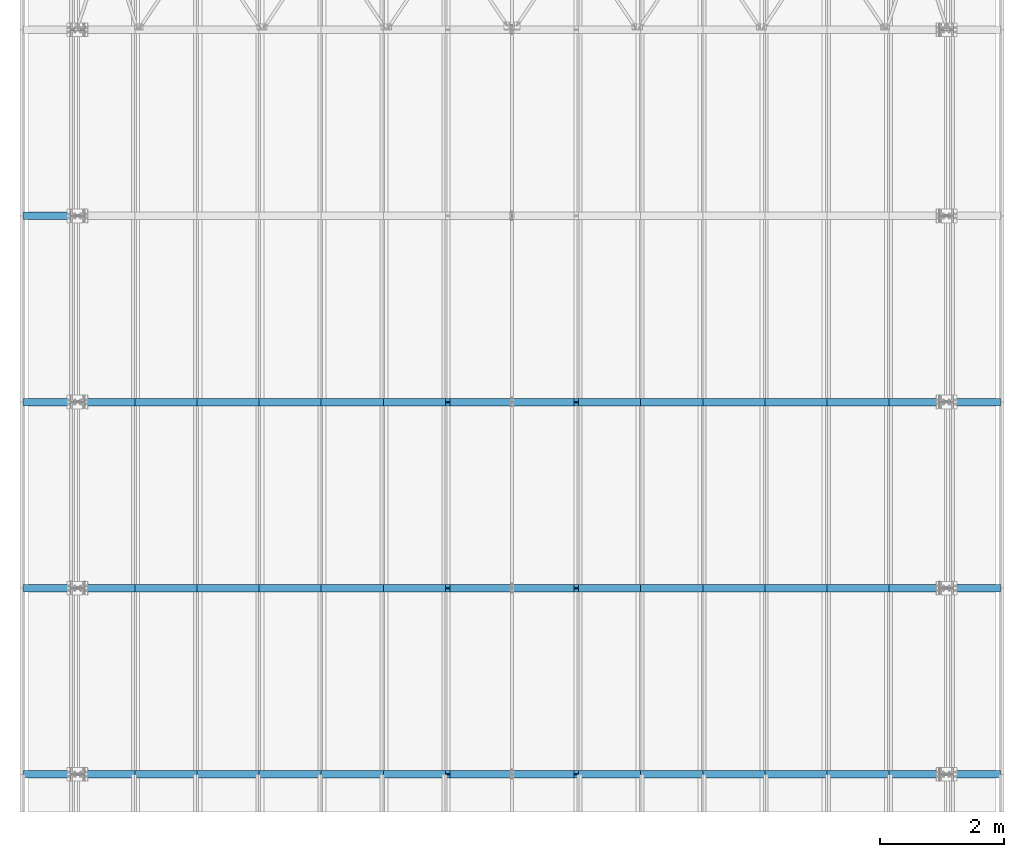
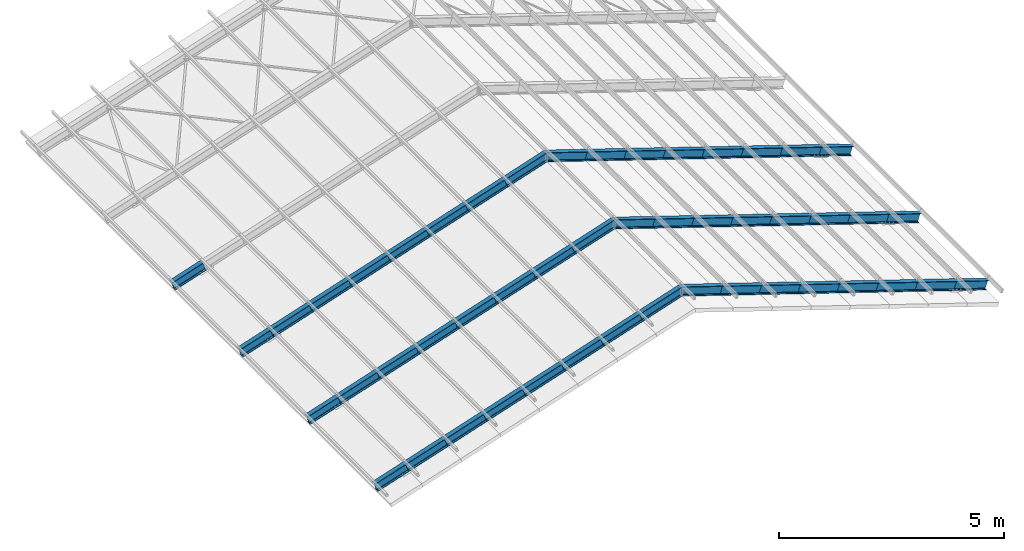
# One storey, part 1 of 53: 49 beams.
"""IFC4 building model written with IfcOpenShell, lengths in metres."""

from ifc_helpers import new_model, si_unit, frame, origin_with_axes, origin_2d_with_axis, place, context, project, spatial, i_section, l_section, extrude, clip, halfspace, material, material_profile, profile_set, profile_usage, type_object, element, save


model = new_model("IFC4")

# Units and contexts
model_context = context("Model", 3, precision=1e-05, world=origin_with_axes())
ifc_project = project(units=[si_unit("LENGTHUNIT", "METRE"), si_unit("AREAUNIT", "SQUARE_METRE"), si_unit("VOLUMEUNIT", "CUBIC_METRE"), si_unit("MASSUNIT", "GRAM", prefix="KILO"), si_unit("TIMEUNIT", "SECOND"), si_unit("PLANEANGLEUNIT", "RADIAN"), si_unit("SOLIDANGLEUNIT", "STERADIAN"), si_unit("THERMODYNAMICTEMPERATUREUNIT", "DEGREE_CELSIUS")], contexts=[model_context])

# Site, building, storey
placement_1 = place(None, origin_with_axes())
site = spatial("IfcSite", under=ifc_project, at=placement_1, Name="Italia", CompositionType="ELEMENT")
building = spatial("IfcBuilding", under=site, at=placement_1, Name="Capannone", CompositionType="ELEMENT")
storey_placement = place(None, frame((0.0, 0.0, 5.550000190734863), z_axis=(0.0, 0.0, 1.0), x_axis=(1.0, 0.0, 0.0)))
storey = spatial("IfcBuildingStorey", under=building, at=storey_placement, Name="Storey 1", CompositionType="ELEMENT", Elevation=5.550000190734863)

# Beams
ifc_material = material(Name="Acciaio", Category="Acciaio")
ifc_material_profile = material_profile(ifc_material, l_section(Depth=0.045, Width=0.045, Thickness=0.004, FilletRadius=0.0, EdgeRadius=0.0, at=origin_2d_with_axis()), Name="2 L45x4")
ifc_profile_set = profile_set([ifc_material_profile])
ifc_profile_usage_1 = profile_usage(ifc_profile_set, cardinal=8)
beam_type_1 = type_object("IfcBeamType", Name="3 IPE240", PredefinedType="BEAM", material=ifc_profile_usage_1)
placement_2 = place(placement_1, origin_with_axes())
beam_1_placement = place(placement_2, origin_with_axes())
element("IfcBeam", 1, at=beam_1_placement, inside=storey, type_object=beam_type_1, Name="103", context=model_context, shape_type="SweptSolid", body=[
    extrude(i_section(OverallWidth=0.12, OverallDepth=0.24, WebThickness=0.0062, FlangeThickness=0.0098, FilletRadius=0.015, at=origin_2d_with_axis()), frame((-0.837458, 6.0, 5.40115), z_axis=(0.950031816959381, 0.0, 0.312153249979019), x_axis=(0.0, 1.0, 0.0)), (0.0, 0.0, 1.0), 0.842077),
])
ifc_profile_usage_2 = profile_usage(ifc_profile_set, cardinal=8)
beam_type_2 = type_object("IfcBeamType", Name="3 IPE240", PredefinedType="BEAM", material=ifc_profile_usage_2)
beam_2_placement = place(placement_2, origin_with_axes())
element("IfcBeam", 2, at=beam_2_placement, inside=storey, type_object=beam_type_2, Name="104", context=model_context, shape_type="SweptSolid", body=[
    extrude(i_section(OverallWidth=0.12, OverallDepth=0.24, WebThickness=0.0062, FlangeThickness=0.0098, FilletRadius=0.015, at=origin_2d_with_axis()), frame((-0.837458, 9.0, 5.40115), z_axis=(0.950031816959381, 0.0, 0.312153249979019), x_axis=(0.0, 1.0, 0.0)), (0.0, 0.0, 1.0), 0.842077),
])
ifc_profile_usage_3 = profile_usage(ifc_profile_set, cardinal=8)
beam_type_3 = type_object("IfcBeamType", Name="3 IPE240", PredefinedType="BEAM", material=ifc_profile_usage_3)
beam_3_placement = place(placement_2, origin_with_axes())
element("IfcBeam", 3, at=beam_3_placement, inside=storey, type_object=beam_type_3, Name="101", context=model_context, shape_type="SweptSolid", body=[
    extrude(i_section(OverallWidth=0.12, OverallDepth=0.24, WebThickness=0.0062, FlangeThickness=0.0098, FilletRadius=0.015, at=origin_2d_with_axis()), frame((-0.837458, 0.0, 5.40115), z_axis=(0.950031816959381, -3.5391459e-08, 0.312153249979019), x_axis=(3.7252917e-08, 1.0, 0.0)), (0.0, 0.0, 1.0), 0.842077),
])
ifc_profile_usage_4 = profile_usage(ifc_profile_set, cardinal=8)
beam_type_4 = type_object("IfcBeamType", Name="3 IPE240", PredefinedType="BEAM", material=ifc_profile_usage_4)
beam_4_placement = place(placement_2, origin_with_axes())
element("IfcBeam", 4, at=beam_4_placement, inside=storey, type_object=beam_type_4, Name="102", context=model_context, shape_type="SweptSolid", body=[
    extrude(i_section(OverallWidth=0.12, OverallDepth=0.24, WebThickness=0.0062, FlangeThickness=0.0098, FilletRadius=0.015, at=origin_2d_with_axis()), frame((-0.837458, 3.0, 5.40115), z_axis=(0.950031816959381, 0.0, 0.312153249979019), x_axis=(0.0, 1.0, 0.0)), (0.0, 0.0, 1.0), 0.842077),
])
ifc_profile_usage_5 = profile_usage(ifc_profile_set, cardinal=8)
beam_type_5 = type_object("IfcBeamType", Name="3 IPE240", PredefinedType="BEAM", material=ifc_profile_usage_5)
beam_5_placement = place(placement_2, origin_with_axes())
element("IfcBeam", 5, at=beam_5_placement, inside=storey, type_object=beam_type_5, Name="142", context=model_context, shape_type="SweptSolid", body=[
    extrude(i_section(OverallWidth=0.12, OverallDepth=0.24, WebThickness=0.0062, FlangeThickness=0.0098, FilletRadius=0.015, at=origin_2d_with_axis()), frame((14.8375, 6.0, 5.40115), z_axis=(-0.950031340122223, 0.0, 0.31215438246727), x_axis=(0.0, -1.0, 0.0)), (0.0, 0.0, 1.0), 0.842077),
])
ifc_profile_usage_6 = profile_usage(ifc_profile_set, cardinal=8)
beam_type_6 = type_object("IfcBeamType", Name="3 IPE240", PredefinedType="BEAM", material=ifc_profile_usage_6)
beam_6_placement = place(placement_2, origin_with_axes())
element("IfcBeam", 6, at=beam_6_placement, inside=storey, type_object=beam_type_6, Name="101", context=model_context, shape_type="SweptSolid", body=[
    extrude(i_section(OverallWidth=0.12, OverallDepth=0.24, WebThickness=0.0062, FlangeThickness=0.0098, FilletRadius=0.015, at=origin_2d_with_axis()), frame((-0.0374584, 0.0, 5.664), z_axis=(0.950031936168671, 0.0, 0.312152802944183), x_axis=(0.0, 1.0, 0.0)), (0.0, 0.0, 1.0), 1.0526),
])
ifc_profile_usage_7 = profile_usage(ifc_profile_set, cardinal=8)
beam_type_7 = type_object("IfcBeamType", Name="3 IPE240", PredefinedType="BEAM", material=ifc_profile_usage_7)
beam_7_placement = place(placement_2, origin_with_axes())
element("IfcBeam", 7, at=beam_7_placement, inside=storey, type_object=beam_type_7, Name="101", context=model_context, shape_type="SweptSolid", body=[
    extrude(i_section(OverallWidth=0.12, OverallDepth=0.24, WebThickness=0.0062, FlangeThickness=0.0098, FilletRadius=0.015, at=origin_2d_with_axis()), frame((0.962542, 0.0, 5.99258), z_axis=(0.950031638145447, 0.0, 0.312153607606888), x_axis=(0.0, 1.0, 0.0)), (0.0, 0.0, 1.0), 1.0526),
])
ifc_profile_usage_8 = profile_usage(ifc_profile_set, cardinal=8)
beam_type_8 = type_object("IfcBeamType", Name="3 IPE240", PredefinedType="BEAM", material=ifc_profile_usage_8)
beam_8_placement = place(placement_2, origin_with_axes())
element("IfcBeam", 8, at=beam_8_placement, inside=storey, type_object=beam_type_8, Name="101", context=model_context, shape_type="SweptSolid", body=[
    extrude(i_section(OverallWidth=0.12, OverallDepth=0.24, WebThickness=0.0062, FlangeThickness=0.0098, FilletRadius=0.015, at=origin_2d_with_axis()), frame((1.96254, 0.0, 6.32115), z_axis=(0.950031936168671, 0.0, 0.312152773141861), x_axis=(0.0, 1.0, 0.0)), (0.0, 0.0, 1.0), 1.0526),
])
ifc_profile_usage_9 = profile_usage(ifc_profile_set, cardinal=8)
beam_type_9 = type_object("IfcBeamType", Name="3 IPE240", PredefinedType="BEAM", material=ifc_profile_usage_9)
beam_9_placement = place(placement_2, origin_with_axes())
element("IfcBeam", 9, at=beam_9_placement, inside=storey, type_object=beam_type_9, Name="101", context=model_context, shape_type="SweptSolid", body=[
    extrude(i_section(OverallWidth=0.12, OverallDepth=0.24, WebThickness=0.0062, FlangeThickness=0.0098, FilletRadius=0.015, at=origin_2d_with_axis()), frame((2.96254, 0.0, 6.64972), z_axis=(0.950031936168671, 0.0, 0.312152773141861), x_axis=(0.0, 1.0, 0.0)), (0.0, 0.0, 1.0), 1.0526),
])
ifc_profile_usage_10 = profile_usage(ifc_profile_set, cardinal=8)
beam_type_10 = type_object("IfcBeamType", Name="3 IPE240", PredefinedType="BEAM", material=ifc_profile_usage_10)
beam_10_placement = place(placement_2, origin_with_axes())
element("IfcBeam", 10, at=beam_10_placement, inside=storey, type_object=beam_type_10, Name="101", context=model_context, shape_type="SweptSolid", body=[
    extrude(i_section(OverallWidth=0.12, OverallDepth=0.24, WebThickness=0.0062, FlangeThickness=0.0098, FilletRadius=0.015, at=origin_2d_with_axis()), frame((3.96254, 0.0, 6.97829), z_axis=(0.950031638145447, 0.0, 0.312153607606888), x_axis=(0.0, 1.0, 0.0)), (0.0, 0.0, 1.0), 1.0526),
])
ifc_profile_usage_11 = profile_usage(ifc_profile_set, cardinal=8)
beam_type_11 = type_object("IfcBeamType", Name="3 IPE240", PredefinedType="BEAM", material=ifc_profile_usage_11)
beam_11_placement = place(placement_2, origin_with_axes())
element("IfcBeam", 11, at=beam_11_placement, inside=storey, type_object=beam_type_11, Name="101", context=model_context, shape_type="SweptSolid", body=[
    extrude(i_section(OverallWidth=0.12, OverallDepth=0.24, WebThickness=0.0062, FlangeThickness=0.0098, FilletRadius=0.015, at=origin_2d_with_axis()), frame((4.96254, 0.0, 7.30686), z_axis=(0.950031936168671, 0.0, 0.312152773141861), x_axis=(0.0, 1.0, 0.0)), (0.0, 0.0, 1.0), 1.0526),
])
ifc_profile_usage_12 = profile_usage(ifc_profile_set, cardinal=8)
beam_type_12 = type_object("IfcBeamType", Name="3 IPE240", PredefinedType="BEAM", material=ifc_profile_usage_12)
beam_12_placement = place(placement_2, origin_with_axes())
element("IfcBeam", 12, at=beam_12_placement, inside=storey, type_object=beam_type_12, Name="102", context=model_context, shape_type="SweptSolid", body=[
    extrude(i_section(OverallWidth=0.12, OverallDepth=0.24, WebThickness=0.0062, FlangeThickness=0.0098, FilletRadius=0.015, at=origin_2d_with_axis()), frame((-0.0374584, 3.0, 5.664), z_axis=(0.950031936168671, 0.0, 0.312152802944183), x_axis=(0.0, 1.0, 0.0)), (0.0, 0.0, 1.0), 1.0526),
])
ifc_profile_usage_13 = profile_usage(ifc_profile_set, cardinal=8)
beam_type_13 = type_object("IfcBeamType", Name="3 IPE240", PredefinedType="BEAM", material=ifc_profile_usage_13)
beam_13_placement = place(placement_2, origin_with_axes())
element("IfcBeam", 13, at=beam_13_placement, inside=storey, type_object=beam_type_13, Name="102", context=model_context, shape_type="SweptSolid", body=[
    extrude(i_section(OverallWidth=0.12, OverallDepth=0.24, WebThickness=0.0062, FlangeThickness=0.0098, FilletRadius=0.015, at=origin_2d_with_axis()), frame((0.962542, 3.0, 5.99258), z_axis=(0.950031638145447, 0.0, 0.312153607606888), x_axis=(0.0, 1.0, 0.0)), (0.0, 0.0, 1.0), 1.0526),
])
ifc_profile_usage_14 = profile_usage(ifc_profile_set, cardinal=8)
beam_type_14 = type_object("IfcBeamType", Name="3 IPE240", PredefinedType="BEAM", material=ifc_profile_usage_14)
beam_14_placement = place(placement_2, origin_with_axes())
element("IfcBeam", 14, at=beam_14_placement, inside=storey, type_object=beam_type_14, Name="102", context=model_context, shape_type="SweptSolid", body=[
    extrude(i_section(OverallWidth=0.12, OverallDepth=0.24, WebThickness=0.0062, FlangeThickness=0.0098, FilletRadius=0.015, at=origin_2d_with_axis()), frame((1.96254, 3.0, 6.32115), z_axis=(0.950031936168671, 0.0, 0.312152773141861), x_axis=(0.0, 1.0, 0.0)), (0.0, 0.0, 1.0), 1.0526),
])
ifc_profile_usage_15 = profile_usage(ifc_profile_set, cardinal=8)
beam_type_15 = type_object("IfcBeamType", Name="3 IPE240", PredefinedType="BEAM", material=ifc_profile_usage_15)
beam_15_placement = place(placement_2, origin_with_axes())
element("IfcBeam", 15, at=beam_15_placement, inside=storey, type_object=beam_type_15, Name="102", context=model_context, shape_type="SweptSolid", body=[
    extrude(i_section(OverallWidth=0.12, OverallDepth=0.24, WebThickness=0.0062, FlangeThickness=0.0098, FilletRadius=0.015, at=origin_2d_with_axis()), frame((2.96254, 3.0, 6.64972), z_axis=(0.950031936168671, 0.0, 0.312152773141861), x_axis=(0.0, 1.0, 0.0)), (0.0, 0.0, 1.0), 1.0526),
])
ifc_profile_usage_16 = profile_usage(ifc_profile_set, cardinal=8)
beam_type_16 = type_object("IfcBeamType", Name="3 IPE240", PredefinedType="BEAM", material=ifc_profile_usage_16)
beam_16_placement = place(placement_2, origin_with_axes())
element("IfcBeam", 16, at=beam_16_placement, inside=storey, type_object=beam_type_16, Name="102", context=model_context, shape_type="SweptSolid", body=[
    extrude(i_section(OverallWidth=0.12, OverallDepth=0.24, WebThickness=0.0062, FlangeThickness=0.0098, FilletRadius=0.015, at=origin_2d_with_axis()), frame((3.96254, 3.0, 6.97829), z_axis=(0.950031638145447, 0.0, 0.312153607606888), x_axis=(0.0, 1.0, 0.0)), (0.0, 0.0, 1.0), 1.0526),
])
ifc_profile_usage_17 = profile_usage(ifc_profile_set, cardinal=8)
beam_type_17 = type_object("IfcBeamType", Name="3 IPE240", PredefinedType="BEAM", material=ifc_profile_usage_17)
beam_17_placement = place(placement_2, origin_with_axes())
element("IfcBeam", 17, at=beam_17_placement, inside=storey, type_object=beam_type_17, Name="102", context=model_context, shape_type="SweptSolid", body=[
    extrude(i_section(OverallWidth=0.12, OverallDepth=0.24, WebThickness=0.0062, FlangeThickness=0.0098, FilletRadius=0.015, at=origin_2d_with_axis()), frame((4.96254, 3.0, 7.30686), z_axis=(0.950031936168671, 0.0, 0.312152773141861), x_axis=(0.0, 1.0, 0.0)), (0.0, 0.0, 1.0), 1.0526),
])
ifc_profile_usage_18 = profile_usage(ifc_profile_set, cardinal=8)
beam_type_18 = type_object("IfcBeamType", Name="3 IPE240", PredefinedType="BEAM", material=ifc_profile_usage_18)
beam_18_placement = place(placement_2, origin_with_axes())
element("IfcBeam", 18, at=beam_18_placement, inside=storey, type_object=beam_type_18, Name="103", context=model_context, shape_type="SweptSolid", body=[
    extrude(i_section(OverallWidth=0.12, OverallDepth=0.24, WebThickness=0.0062, FlangeThickness=0.0098, FilletRadius=0.015, at=origin_2d_with_axis()), frame((-0.0374584, 6.0, 5.664), z_axis=(0.950031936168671, 0.0, 0.312152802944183), x_axis=(0.0, 1.0, 0.0)), (0.0, 0.0, 1.0), 1.0526),
])
ifc_profile_usage_19 = profile_usage(ifc_profile_set, cardinal=8)
beam_type_19 = type_object("IfcBeamType", Name="3 IPE240", PredefinedType="BEAM", material=ifc_profile_usage_19)
beam_19_placement = place(placement_2, origin_with_axes())
element("IfcBeam", 19, at=beam_19_placement, inside=storey, type_object=beam_type_19, Name="103", context=model_context, shape_type="SweptSolid", body=[
    extrude(i_section(OverallWidth=0.12, OverallDepth=0.24, WebThickness=0.0062, FlangeThickness=0.0098, FilletRadius=0.015, at=origin_2d_with_axis()), frame((0.962542, 6.0, 5.99258), z_axis=(0.950031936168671, 0.0, 0.312152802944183), x_axis=(0.0, 1.0, 0.0)), (0.0, 0.0, 1.0), 1.0526),
])
ifc_profile_usage_20 = profile_usage(ifc_profile_set, cardinal=8)
beam_type_20 = type_object("IfcBeamType", Name="3 IPE240", PredefinedType="BEAM", material=ifc_profile_usage_20)
beam_20_placement = place(placement_2, origin_with_axes())
element("IfcBeam", 20, at=beam_20_placement, inside=storey, type_object=beam_type_20, Name="103", context=model_context, shape_type="SweptSolid", body=[
    extrude(i_section(OverallWidth=0.12, OverallDepth=0.24, WebThickness=0.0062, FlangeThickness=0.0098, FilletRadius=0.015, at=origin_2d_with_axis()), frame((1.96254, 6.0, 6.32115), z_axis=(0.950031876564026, 0.0, 0.312152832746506), x_axis=(0.0, 1.0, 0.0)), (0.0, 0.0, 1.0), 1.0526),
])
ifc_profile_usage_21 = profile_usage(ifc_profile_set, cardinal=8)
beam_type_21 = type_object("IfcBeamType", Name="3 IPE240", PredefinedType="BEAM", material=ifc_profile_usage_21)
beam_21_placement = place(placement_2, origin_with_axes())
element("IfcBeam", 21, at=beam_21_placement, inside=storey, type_object=beam_type_21, Name="103", context=model_context, shape_type="SweptSolid", body=[
    extrude(i_section(OverallWidth=0.12, OverallDepth=0.24, WebThickness=0.0062, FlangeThickness=0.0098, FilletRadius=0.015, at=origin_2d_with_axis()), frame((2.96254, 6.0, 6.64972), z_axis=(0.950031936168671, 0.0, 0.312152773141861), x_axis=(0.0, 1.0, 0.0)), (0.0, 0.0, 1.0), 1.0526),
])
ifc_profile_usage_22 = profile_usage(ifc_profile_set, cardinal=8)
beam_type_22 = type_object("IfcBeamType", Name="3 IPE240", PredefinedType="BEAM", material=ifc_profile_usage_22)
beam_22_placement = place(placement_2, origin_with_axes())
element("IfcBeam", 22, at=beam_22_placement, inside=storey, type_object=beam_type_22, Name="103", context=model_context, shape_type="SweptSolid", body=[
    extrude(i_section(OverallWidth=0.12, OverallDepth=0.24, WebThickness=0.0062, FlangeThickness=0.0098, FilletRadius=0.015, at=origin_2d_with_axis()), frame((3.96254, 6.0, 6.97829), z_axis=(0.950031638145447, 0.0, 0.312153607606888), x_axis=(0.0, 1.0, 0.0)), (0.0, 0.0, 1.0), 1.0526),
])
ifc_profile_usage_23 = profile_usage(ifc_profile_set, cardinal=8)
beam_type_23 = type_object("IfcBeamType", Name="3 IPE240", PredefinedType="BEAM", material=ifc_profile_usage_23)
beam_23_placement = place(placement_2, origin_with_axes())
element("IfcBeam", 23, at=beam_23_placement, inside=storey, type_object=beam_type_23, Name="103", context=model_context, shape_type="SweptSolid", body=[
    extrude(i_section(OverallWidth=0.12, OverallDepth=0.24, WebThickness=0.0062, FlangeThickness=0.0098, FilletRadius=0.015, at=origin_2d_with_axis()), frame((4.96254, 6.0, 7.30686), z_axis=(0.950031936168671, 0.0, 0.312152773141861), x_axis=(0.0, 1.0, 0.0)), (0.0, 0.0, 1.0), 1.0526),
])
ifc_profile_usage_24 = profile_usage(ifc_profile_set, cardinal=8)
beam_type_24 = type_object("IfcBeamType", Name="3 IPE240", PredefinedType="BEAM", material=ifc_profile_usage_24)
beam_24_placement = place(placement_2, frame((8.037457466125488, 6.0, 7.635433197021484), z_axis=(0.0, 0.0, 1.0), x_axis=(1.0, 0.0, 0.0)))
element("IfcBeam", 24, at=beam_24_placement, inside=storey, type_object=beam_type_24, Name="142", context=model_context, shape_type="Clipping", body=[
    clip(extrude(i_section(OverallWidth=0.12, OverallDepth=0.24, WebThickness=0.0062, FlangeThickness=0.0098, FilletRadius=0.015, at=origin_2d_with_axis()), frame((0.0, 0.0, 0.0), z_axis=(-0.950031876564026, 0.0, 0.312152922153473), x_axis=(0.0, -1.0, 0.0)), (0.0, 0.0, 1.0), 1.57889), halfspace(frame((-1.02245, 0.0, 0.335951), z_axis=(1.0, 9.24e-13, 4.6227811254e-05), x_axis=(-9.24e-13, 1.0, 0.0)), True)),
])
ifc_profile_usage_25 = profile_usage(ifc_profile_set, cardinal=8)
beam_type_25 = type_object("IfcBeamType", Name="3 IPE240", PredefinedType="BEAM", material=ifc_profile_usage_25)
beam_25_placement = place(placement_2, origin_with_axes())
element("IfcBeam", 25, at=beam_25_placement, inside=storey, type_object=beam_type_25, Name="142", context=model_context, shape_type="SweptSolid", body=[
    extrude(i_section(OverallWidth=0.12, OverallDepth=0.24, WebThickness=0.0062, FlangeThickness=0.0098, FilletRadius=0.015, at=origin_2d_with_axis()), frame((9.03746, 6.0, 7.30686), z_axis=(-0.950031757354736, 0.0, 0.312153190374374), x_axis=(0.0, -1.0, 0.0)), (0.0, 0.0, 1.0), 1.0526),
])
ifc_profile_usage_26 = profile_usage(ifc_profile_set, cardinal=8)
beam_type_26 = type_object("IfcBeamType", Name="3 IPE240", PredefinedType="BEAM", material=ifc_profile_usage_26)
beam_26_placement = place(placement_2, origin_with_axes())
element("IfcBeam", 26, at=beam_26_placement, inside=storey, type_object=beam_type_26, Name="142", context=model_context, shape_type="SweptSolid", body=[
    extrude(i_section(OverallWidth=0.12, OverallDepth=0.24, WebThickness=0.0062, FlangeThickness=0.0098, FilletRadius=0.015, at=origin_2d_with_axis()), frame((10.0375, 6.0, 6.97829), z_axis=(-0.950031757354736, 0.0, 0.312153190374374), x_axis=(0.0, -1.0, 0.0)), (0.0, 0.0, 1.0), 1.0526),
])
ifc_profile_usage_27 = profile_usage(ifc_profile_set, cardinal=8)
beam_type_27 = type_object("IfcBeamType", Name="3 IPE240", PredefinedType="BEAM", material=ifc_profile_usage_27)
beam_27_placement = place(placement_2, origin_with_axes())
element("IfcBeam", 27, at=beam_27_placement, inside=storey, type_object=beam_type_27, Name="142", context=model_context, shape_type="SweptSolid", body=[
    extrude(i_section(OverallWidth=0.12, OverallDepth=0.24, WebThickness=0.0062, FlangeThickness=0.0098, FilletRadius=0.015, at=origin_2d_with_axis()), frame((11.0375, 6.0, 6.64972), z_axis=(-0.950031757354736, 0.0, 0.312153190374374), x_axis=(0.0, -1.0, 0.0)), (0.0, 0.0, 1.0), 1.0526),
])
ifc_profile_usage_28 = profile_usage(ifc_profile_set, cardinal=8)
beam_type_28 = type_object("IfcBeamType", Name="3 IPE240", PredefinedType="BEAM", material=ifc_profile_usage_28)
beam_28_placement = place(placement_2, origin_with_axes())
element("IfcBeam", 28, at=beam_28_placement, inside=storey, type_object=beam_type_28, Name="142", context=model_context, shape_type="SweptSolid", body=[
    extrude(i_section(OverallWidth=0.12, OverallDepth=0.24, WebThickness=0.0062, FlangeThickness=0.0098, FilletRadius=0.015, at=origin_2d_with_axis()), frame((12.0375, 6.0, 6.32115), z_axis=(-0.950031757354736, 0.0, 0.312153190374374), x_axis=(0.0, -1.0, 0.0)), (0.0, 0.0, 1.0), 1.0526),
])
ifc_profile_usage_29 = profile_usage(ifc_profile_set, cardinal=8)
beam_type_29 = type_object("IfcBeamType", Name="3 IPE240", PredefinedType="BEAM", material=ifc_profile_usage_29)
beam_29_placement = place(placement_2, origin_with_axes())
element("IfcBeam", 29, at=beam_29_placement, inside=storey, type_object=beam_type_29, Name="142", context=model_context, shape_type="SweptSolid", body=[
    extrude(i_section(OverallWidth=0.12, OverallDepth=0.24, WebThickness=0.0062, FlangeThickness=0.0098, FilletRadius=0.015, at=origin_2d_with_axis()), frame((13.0375, 6.0, 5.99258), z_axis=(-0.950031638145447, 0.0, 0.312153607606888), x_axis=(0.0, -1.0, 0.0)), (0.0, 0.0, 1.0), 1.0526),
])
ifc_profile_usage_30 = profile_usage(ifc_profile_set, cardinal=8)
beam_type_30 = type_object("IfcBeamType", Name="3 IPE240", PredefinedType="BEAM", material=ifc_profile_usage_30)
beam_30_placement = place(placement_2, origin_with_axes())
element("IfcBeam", 30, at=beam_30_placement, inside=storey, type_object=beam_type_30, Name="141", context=model_context, shape_type="SweptSolid", body=[
    extrude(i_section(OverallWidth=0.12, OverallDepth=0.24, WebThickness=0.0062, FlangeThickness=0.0098, FilletRadius=0.015, at=origin_2d_with_axis()), frame((14.8375, 3.0, 5.40115), z_axis=(-0.950031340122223, 0.0, 0.31215438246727), x_axis=(0.0, -1.0, 0.0)), (0.0, 0.0, 1.0), 0.842077),
])
ifc_profile_usage_31 = profile_usage(ifc_profile_set, cardinal=8)
beam_type_31 = type_object("IfcBeamType", Name="3 IPE240", PredefinedType="BEAM", material=ifc_profile_usage_31)
beam_31_placement = place(placement_2, origin_with_axes())
element("IfcBeam", 31, at=beam_31_placement, inside=storey, type_object=beam_type_31, Name="140", context=model_context, shape_type="SweptSolid", body=[
    extrude(i_section(OverallWidth=0.12, OverallDepth=0.24, WebThickness=0.0062, FlangeThickness=0.0098, FilletRadius=0.015, at=origin_2d_with_axis()), frame((14.8375, 0.0, 5.40115), z_axis=(-0.950031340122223, -3.5391459e-08, 0.31215438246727), x_axis=(3.7252939e-08, -1.0, 0.0)), (0.0, 0.0, 1.0), 0.842077),
])
ifc_profile_usage_32 = profile_usage(ifc_profile_set, cardinal=8)
beam_type_32 = type_object("IfcBeamType", Name="3 IPE240", PredefinedType="BEAM", material=ifc_profile_usage_32)
beam_32_placement = place(placement_2, origin_with_axes())
element("IfcBeam", 32, at=beam_32_placement, inside=storey, type_object=beam_type_32, Name="141", context=model_context, shape_type="SweptSolid", body=[
    extrude(i_section(OverallWidth=0.12, OverallDepth=0.24, WebThickness=0.0062, FlangeThickness=0.0098, FilletRadius=0.015, at=origin_2d_with_axis()), frame((13.0375, 3.0, 5.99258), z_axis=(-0.950031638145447, 0.0, 0.312153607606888), x_axis=(0.0, -1.0, 0.0)), (0.0, 0.0, 1.0), 1.0526),
])
ifc_profile_usage_33 = profile_usage(ifc_profile_set, cardinal=8)
beam_type_33 = type_object("IfcBeamType", Name="3 IPE240", PredefinedType="BEAM", material=ifc_profile_usage_33)
beam_33_placement = place(placement_2, origin_with_axes())
element("IfcBeam", 33, at=beam_33_placement, inside=storey, type_object=beam_type_33, Name="141", context=model_context, shape_type="SweptSolid", body=[
    extrude(i_section(OverallWidth=0.12, OverallDepth=0.24, WebThickness=0.0062, FlangeThickness=0.0098, FilletRadius=0.015, at=origin_2d_with_axis()), frame((12.0375, 3.0, 6.32115), z_axis=(-0.950031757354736, 0.0, 0.312153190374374), x_axis=(0.0, -1.0, 0.0)), (0.0, 0.0, 1.0), 1.0526),
])
ifc_profile_usage_34 = profile_usage(ifc_profile_set, cardinal=8)
beam_type_34 = type_object("IfcBeamType", Name="3 IPE240", PredefinedType="BEAM", material=ifc_profile_usage_34)
beam_34_placement = place(placement_2, origin_with_axes())
element("IfcBeam", 34, at=beam_34_placement, inside=storey, type_object=beam_type_34, Name="141", context=model_context, shape_type="SweptSolid", body=[
    extrude(i_section(OverallWidth=0.12, OverallDepth=0.24, WebThickness=0.0062, FlangeThickness=0.0098, FilletRadius=0.015, at=origin_2d_with_axis()), frame((11.0375, 3.0, 6.64972), z_axis=(-0.950031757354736, 0.0, 0.312153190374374), x_axis=(0.0, -1.0, 0.0)), (0.0, 0.0, 1.0), 1.0526),
])
ifc_profile_usage_35 = profile_usage(ifc_profile_set, cardinal=8)
beam_type_35 = type_object("IfcBeamType", Name="3 IPE240", PredefinedType="BEAM", material=ifc_profile_usage_35)
beam_35_placement = place(placement_2, origin_with_axes())
element("IfcBeam", 35, at=beam_35_placement, inside=storey, type_object=beam_type_35, Name="141", context=model_context, shape_type="SweptSolid", body=[
    extrude(i_section(OverallWidth=0.12, OverallDepth=0.24, WebThickness=0.0062, FlangeThickness=0.0098, FilletRadius=0.015, at=origin_2d_with_axis()), frame((10.0375, 3.0, 6.97829), z_axis=(-0.950031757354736, 0.0, 0.312153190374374), x_axis=(0.0, -1.0, 0.0)), (0.0, 0.0, 1.0), 1.0526),
])
ifc_profile_usage_36 = profile_usage(ifc_profile_set, cardinal=8)
beam_type_36 = type_object("IfcBeamType", Name="3 IPE240", PredefinedType="BEAM", material=ifc_profile_usage_36)
beam_36_placement = place(placement_2, origin_with_axes())
element("IfcBeam", 36, at=beam_36_placement, inside=storey, type_object=beam_type_36, Name="141", context=model_context, shape_type="SweptSolid", body=[
    extrude(i_section(OverallWidth=0.12, OverallDepth=0.24, WebThickness=0.0062, FlangeThickness=0.0098, FilletRadius=0.015, at=origin_2d_with_axis()), frame((9.03746, 3.0, 7.30686), z_axis=(-0.950031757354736, 0.0, 0.312153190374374), x_axis=(0.0, -1.0, 0.0)), (0.0, 0.0, 1.0), 1.0526),
])
ifc_profile_usage_37 = profile_usage(ifc_profile_set, cardinal=8)
beam_type_37 = type_object("IfcBeamType", Name="3 IPE240", PredefinedType="BEAM", material=ifc_profile_usage_37)
beam_37_placement = place(placement_2, frame((8.037457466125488, 3.000000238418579, 7.635433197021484), z_axis=(0.0, 0.0, 1.0), x_axis=(1.0, 0.0, 0.0)))
element("IfcBeam", 37, at=beam_37_placement, inside=storey, type_object=beam_type_37, Name="141", context=model_context, shape_type="Clipping", body=[
    clip(extrude(i_section(OverallWidth=0.12, OverallDepth=0.24, WebThickness=0.0062, FlangeThickness=0.0098, FilletRadius=0.015, at=origin_2d_with_axis()), frame((0.0, 0.0, 0.0), z_axis=(-0.950031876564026, 0.0, 0.312152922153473), x_axis=(0.0, -1.0, 0.0)), (0.0, 0.0, 1.0), 1.57889), halfspace(frame((-1.02245, -2.38419e-07, 0.335951), z_axis=(1.0, 9.24e-13, 4.6227811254e-05), x_axis=(-9.24e-13, 1.0, 0.0)), True)),
])
ifc_profile_usage_38 = profile_usage(ifc_profile_set, cardinal=8)
beam_type_38 = type_object("IfcBeamType", Name="3 IPE240", PredefinedType="BEAM", material=ifc_profile_usage_38)
beam_38_placement = place(placement_2, frame((8.037457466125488, -2.8871e-08, 7.635433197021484), z_axis=(0.0, 0.0, 1.0), x_axis=(1.0, 0.0, 0.0)))
element("IfcBeam", 38, at=beam_38_placement, inside=storey, type_object=beam_type_38, Name="140", context=model_context, shape_type="Clipping", body=[
    clip(extrude(i_section(OverallWidth=0.12, OverallDepth=0.24, WebThickness=0.0062, FlangeThickness=0.0098, FilletRadius=0.015, at=origin_2d_with_axis()), frame((0.0, 0.0, 0.0), z_axis=(-0.950031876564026, 0.0, 0.312152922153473), x_axis=(0.0, -1.0, 0.0)), (0.0, 0.0, 1.0), 1.57889), halfspace(frame((-1.02246, 0.0, 0.33595), z_axis=(1.0, 0.0, 0.0), x_axis=(0.0, 1.0, 0.0)), True)),
])
ifc_profile_usage_39 = profile_usage(ifc_profile_set, cardinal=8)
beam_type_39 = type_object("IfcBeamType", Name="3 IPE240", PredefinedType="BEAM", material=ifc_profile_usage_39)
beam_39_placement = place(placement_2, origin_with_axes())
element("IfcBeam", 39, at=beam_39_placement, inside=storey, type_object=beam_type_39, Name="140", context=model_context, shape_type="SweptSolid", body=[
    extrude(i_section(OverallWidth=0.12, OverallDepth=0.24, WebThickness=0.0062, FlangeThickness=0.0098, FilletRadius=0.015, at=origin_2d_with_axis()), frame((9.03746, 0.0, 7.30686), z_axis=(-0.950031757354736, 0.0, 0.312153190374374), x_axis=(0.0, -1.0, 0.0)), (0.0, 0.0, 1.0), 1.0526),
])
ifc_profile_usage_40 = profile_usage(ifc_profile_set, cardinal=8)
beam_type_40 = type_object("IfcBeamType", Name="3 IPE240", PredefinedType="BEAM", material=ifc_profile_usage_40)
beam_40_placement = place(placement_2, origin_with_axes())
element("IfcBeam", 40, at=beam_40_placement, inside=storey, type_object=beam_type_40, Name="140", context=model_context, shape_type="SweptSolid", body=[
    extrude(i_section(OverallWidth=0.12, OverallDepth=0.24, WebThickness=0.0062, FlangeThickness=0.0098, FilletRadius=0.015, at=origin_2d_with_axis()), frame((10.0375, 0.0, 6.97829), z_axis=(-0.950031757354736, 0.0, 0.312153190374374), x_axis=(0.0, -1.0, 0.0)), (0.0, 0.0, 1.0), 1.0526),
])
ifc_profile_usage_41 = profile_usage(ifc_profile_set, cardinal=8)
beam_type_41 = type_object("IfcBeamType", Name="3 IPE240", PredefinedType="BEAM", material=ifc_profile_usage_41)
beam_41_placement = place(placement_2, origin_with_axes())
element("IfcBeam", 41, at=beam_41_placement, inside=storey, type_object=beam_type_41, Name="140", context=model_context, shape_type="SweptSolid", body=[
    extrude(i_section(OverallWidth=0.12, OverallDepth=0.24, WebThickness=0.0062, FlangeThickness=0.0098, FilletRadius=0.015, at=origin_2d_with_axis()), frame((11.0375, 0.0, 6.64972), z_axis=(-0.950031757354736, 0.0, 0.312153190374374), x_axis=(0.0, -1.0, 0.0)), (0.0, 0.0, 1.0), 1.0526),
])
ifc_profile_usage_42 = profile_usage(ifc_profile_set, cardinal=8)
beam_type_42 = type_object("IfcBeamType", Name="3 IPE240", PredefinedType="BEAM", material=ifc_profile_usage_42)
beam_42_placement = place(placement_2, origin_with_axes())
element("IfcBeam", 42, at=beam_42_placement, inside=storey, type_object=beam_type_42, Name="140", context=model_context, shape_type="SweptSolid", body=[
    extrude(i_section(OverallWidth=0.12, OverallDepth=0.24, WebThickness=0.0062, FlangeThickness=0.0098, FilletRadius=0.015, at=origin_2d_with_axis()), frame((12.0375, 0.0, 6.32115), z_axis=(-0.950031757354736, 0.0, 0.312153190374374), x_axis=(0.0, -1.0, 0.0)), (0.0, 0.0, 1.0), 1.0526),
])
ifc_profile_usage_43 = profile_usage(ifc_profile_set, cardinal=8)
beam_type_43 = type_object("IfcBeamType", Name="3 IPE240", PredefinedType="BEAM", material=ifc_profile_usage_43)
beam_43_placement = place(placement_2, origin_with_axes())
element("IfcBeam", 43, at=beam_43_placement, inside=storey, type_object=beam_type_43, Name="140", context=model_context, shape_type="SweptSolid", body=[
    extrude(i_section(OverallWidth=0.12, OverallDepth=0.24, WebThickness=0.0062, FlangeThickness=0.0098, FilletRadius=0.015, at=origin_2d_with_axis()), frame((13.0375, 0.0, 5.99258), z_axis=(-0.950031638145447, 0.0, 0.312153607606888), x_axis=(0.0, -1.0, 0.0)), (0.0, 0.0, 1.0), 1.0526),
])
ifc_profile_usage_44 = profile_usage(ifc_profile_set, cardinal=8)
beam_type_44 = type_object("IfcBeamType", Name="3 IPE240", PredefinedType="BEAM", material=ifc_profile_usage_44)
beam_44_placement = place(placement_2, origin_with_axes())
element("IfcBeam", 44, at=beam_44_placement, inside=storey, type_object=beam_type_44, Name="142", context=model_context, shape_type="SweptSolid", body=[
    extrude(i_section(OverallWidth=0.12, OverallDepth=0.24, WebThickness=0.0062, FlangeThickness=0.0098, FilletRadius=0.015, at=origin_2d_with_axis()), frame((14.0375, 6.0, 5.664), z_axis=(-0.950031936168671, 0.0, 0.312152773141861), x_axis=(0.0, -1.0, 0.0)), (0.0, 0.0, 1.0), 1.0526),
])
ifc_profile_usage_45 = profile_usage(ifc_profile_set, cardinal=8)
beam_type_45 = type_object("IfcBeamType", Name="3 IPE240", PredefinedType="BEAM", material=ifc_profile_usage_45)
beam_45_placement = place(placement_2, frame((5.962541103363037, 6.0, 7.63543176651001), z_axis=(0.0, 0.0, 1.0), x_axis=(1.0, 0.0, 0.0)))
element("IfcBeam", 45, at=beam_45_placement, inside=storey, type_object=beam_type_45, Name="103", context=model_context, shape_type="Clipping", body=[
    clip(extrude(i_section(OverallWidth=0.12, OverallDepth=0.24, WebThickness=0.0062, FlangeThickness=0.0098, FilletRadius=0.015, at=origin_2d_with_axis()), frame((0.0, 0.0, 0.0), z_axis=(0.950031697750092, 0.0, 0.312153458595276), x_axis=(0.0, 1.0, 0.0)), (0.0, 0.0, 1.0), 1.57889), halfspace(frame((1.05246, 0.0, 0.335952), z_axis=(1.0, 9.24e-13, 4.6227811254e-05), x_axis=(-9.24e-13, 1.0, 0.0)), False)),
])
ifc_profile_usage_46 = profile_usage(ifc_profile_set, cardinal=8)
beam_type_46 = type_object("IfcBeamType", Name="3 IPE240", PredefinedType="BEAM", material=ifc_profile_usage_46)
beam_46_placement = place(placement_2, origin_with_axes())
element("IfcBeam", 46, at=beam_46_placement, inside=storey, type_object=beam_type_46, Name="141", context=model_context, shape_type="SweptSolid", body=[
    extrude(i_section(OverallWidth=0.12, OverallDepth=0.24, WebThickness=0.0062, FlangeThickness=0.0098, FilletRadius=0.015, at=origin_2d_with_axis()), frame((14.0375, 3.0, 5.664), z_axis=(-0.950031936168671, 0.0, 0.312152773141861), x_axis=(0.0, -1.0, 0.0)), (0.0, 0.0, 1.0), 1.0526),
])
ifc_profile_usage_47 = profile_usage(ifc_profile_set, cardinal=8)
beam_type_47 = type_object("IfcBeamType", Name="3 IPE240", PredefinedType="BEAM", material=ifc_profile_usage_47)
beam_47_placement = place(placement_2, frame((5.962541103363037, 2.999999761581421, 7.63543176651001), z_axis=(0.0, 0.0, 1.0), x_axis=(1.0, 0.0, 0.0)))
element("IfcBeam", 47, at=beam_47_placement, inside=storey, type_object=beam_type_47, Name="102", context=model_context, shape_type="Clipping", body=[
    clip(extrude(i_section(OverallWidth=0.12, OverallDepth=0.24, WebThickness=0.0062, FlangeThickness=0.0098, FilletRadius=0.015, at=origin_2d_with_axis()), frame((0.0, 0.0, 0.0), z_axis=(0.950031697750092, 0.0, 0.312153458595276), x_axis=(0.0, 1.0, 0.0)), (0.0, 0.0, 1.0), 1.57889), halfspace(frame((1.05246, 2.38419e-07, 0.335952), z_axis=(1.0, 9.24e-13, 4.6227811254e-05), x_axis=(-9.24e-13, 1.0, 0.0)), False)),
])
ifc_profile_usage_48 = profile_usage(ifc_profile_set, cardinal=8)
beam_type_48 = type_object("IfcBeamType", Name="3 IPE240", PredefinedType="BEAM", material=ifc_profile_usage_48)
beam_48_placement = place(placement_2, frame((5.962541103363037, -3.0733645e-08, 7.63543176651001), z_axis=(0.0, 0.0, 1.0), x_axis=(1.0, 0.0, 0.0)))
element("IfcBeam", 48, at=beam_48_placement, inside=storey, type_object=beam_type_48, Name="101", context=model_context, shape_type="Clipping", body=[
    clip(extrude(i_section(OverallWidth=0.12, OverallDepth=0.24, WebThickness=0.0062, FlangeThickness=0.0098, FilletRadius=0.015, at=origin_2d_with_axis()), frame((0.0, 0.0, 0.0), z_axis=(0.950031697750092, 0.0, 0.312153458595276), x_axis=(0.0, 1.0, 0.0)), (0.0, 0.0, 1.0), 1.57889), halfspace(frame((1.05246, 0.0, 0.335952), z_axis=(1.0, 0.0, 0.0), x_axis=(0.0, 1.0, 0.0)), False)),
])
ifc_profile_usage_49 = profile_usage(ifc_profile_set, cardinal=8)
beam_type_49 = type_object("IfcBeamType", Name="3 IPE240", PredefinedType="BEAM", material=ifc_profile_usage_49)
beam_49_placement = place(placement_2, origin_with_axes())
element("IfcBeam", 49, at=beam_49_placement, inside=storey, type_object=beam_type_49, Name="140", context=model_context, shape_type="SweptSolid", body=[
    extrude(i_section(OverallWidth=0.12, OverallDepth=0.24, WebThickness=0.0062, FlangeThickness=0.0098, FilletRadius=0.015, at=origin_2d_with_axis()), frame((14.0375, 0.0, 5.664), z_axis=(-0.950031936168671, 0.0, 0.312152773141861), x_axis=(0.0, -1.0, 0.0)), (0.0, 0.0, 1.0), 1.0526),
])

save(model, "model.ifc")
